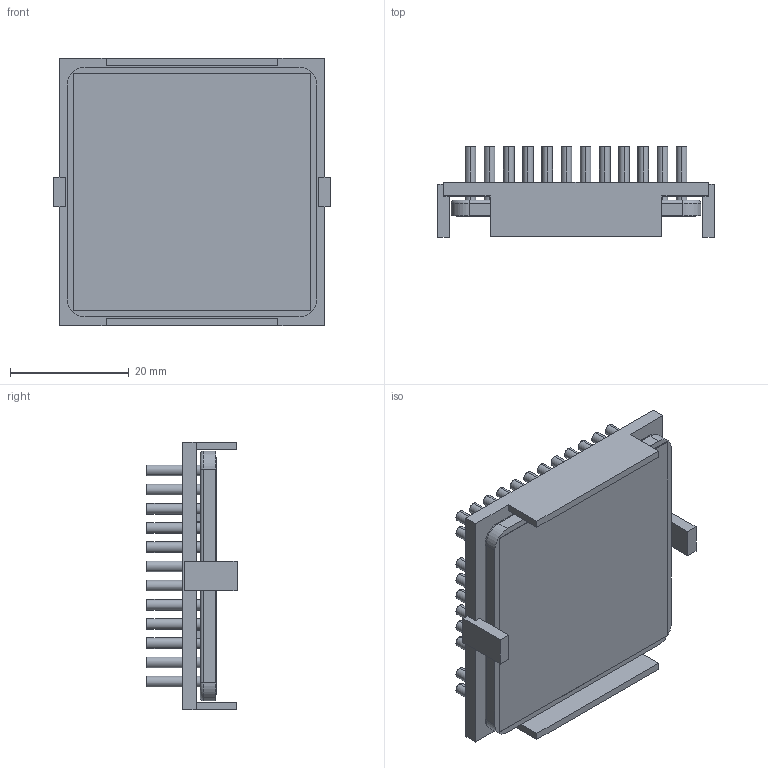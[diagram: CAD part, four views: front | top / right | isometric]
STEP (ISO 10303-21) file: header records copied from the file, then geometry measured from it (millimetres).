
FILE_DESCRIPTION (( 'STEP AP214' ), '1' );
FILE_NAME ('INM42.5002-12PCU-2.6Y.STEP', '2023-02-28T00:20:34', ( '' ), ( '' ), 'SwSTEP 2.0', 'SolidWorks 2020', '' );
FILE_SCHEMA (( 'AUTOMOTIVE_DESIGN' ));
Length unit declared in the file: inch
Products named in the file (1): INM42.5002-12PCU-2.6Y
Bounding box: 46.7 x 15.2 x 45.1 mm (x, y, z)
Volume: 10003.4 mm3; surface area: 17285 mm2
Topology: 3 solids, 3 shells, 486 faces, 1024 edges, 680 vertices
Faces by surface type: cylinder 280, plane 202, torus 4
Entity records: 19652 total; most frequent: DIRECTION 2562, CARTESIAN_POINT 2191, ORIENTED_EDGE 2048, AXIS2_PLACEMENT_3D 1051, EDGE_CURVE 1024, VERTEX_POINT 680, EDGE_LOOP 624, CIRCLE 564
